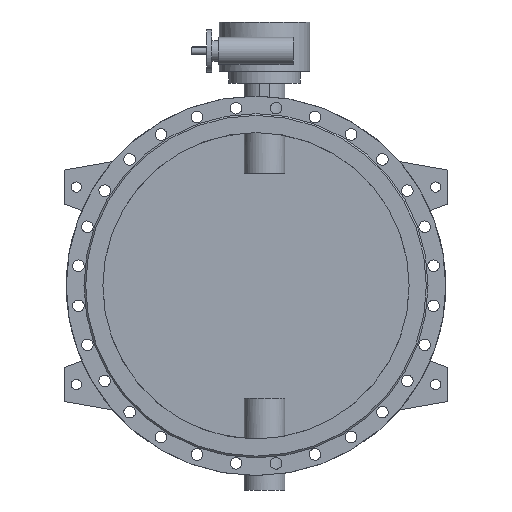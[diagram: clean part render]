
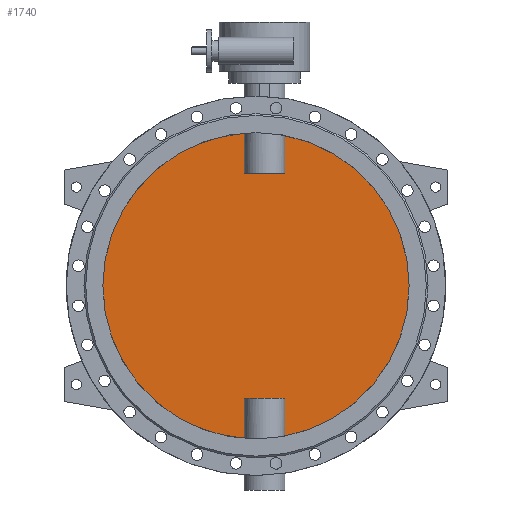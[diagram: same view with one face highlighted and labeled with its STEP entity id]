
A CAD part, front view. The second image highlights one B-rep face of the part: STEP entity #1740.
In plain terms, the highlighted planar face has unit normal (0, -1, 0).
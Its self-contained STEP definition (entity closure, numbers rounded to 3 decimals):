
#1740=ADVANCED_FACE('',(#3676),#3678,.F.);
#3676=FACE_BOUND('',#3677,.T.);
#3677=EDGE_LOOP('',(#4602,#4603,#4604,#4605,#4606,#4607,#4608,#4609));
#3678=PLANE('',#3679);
#3679=AXIS2_PLACEMENT_3D('',#3680,#3681,#3682);
#3680=CARTESIAN_POINT('',(0.,-5.,0.));
#3681=DIRECTION('',(0.,1.,0.));
#3682=DIRECTION('',(1.,0.,0.));
#4602=ORIENTED_EDGE('',*,*,#5065,.T.);
#4603=ORIENTED_EDGE('',*,*,#5071,.T.);
#4604=ORIENTED_EDGE('',*,*,#5072,.T.);
#4605=ORIENTED_EDGE('',*,*,#5073,.T.);
#4606=ORIENTED_EDGE('',*,*,#5067,.T.);
#4607=ORIENTED_EDGE('',*,*,#5074,.T.);
#4608=ORIENTED_EDGE('',*,*,#5075,.T.);
#4609=ORIENTED_EDGE('',*,*,#5076,.T.);
#5065=EDGE_CURVE('',#5833,#5834,#5835,.F.);
#5067=EDGE_CURVE('',#5838,#5836,#5839,.F.);
#5071=EDGE_CURVE('',#5834,#5845,#5846,.T.);
#5072=EDGE_CURVE('',#5845,#5847,#5848,.F.);
#5073=EDGE_CURVE('',#5847,#5838,#5849,.F.);
#5074=EDGE_CURVE('',#5836,#5850,#5851,.F.);
#5075=EDGE_CURVE('',#5850,#5852,#5853,.F.);
#5076=EDGE_CURVE('',#5852,#5833,#5854,.T.);
#5833=VERTEX_POINT('',#8590);
#5834=VERTEX_POINT('',#8591);
#5835=CIRCLE('',#8592,450.);
#5836=VERTEX_POINT('',#8596);
#5838=VERTEX_POINT('',#8686);
#5839=CIRCLE('',#8687,450.);
#5845=VERTEX_POINT('',#8807);
#5846=LINE('',#8808,#8809);
#5847=VERTEX_POINT('',#8811);
#5848=LINE('',#8812,#8813);
#5849=LINE('',#8815,#8816);
#5850=VERTEX_POINT('',#8818);
#5851=LINE('',#8819,#8820);
#5852=VERTEX_POINT('',#8822);
#5853=LINE('',#8823,#8824);
#5854=LINE('',#8826,#8827);
#8590=CARTESIAN_POINT('',(84.791,-5.,-441.939));
#8591=CARTESIAN_POINT('',(84.791,-5.,441.939));
#8592=AXIS2_PLACEMENT_3D('',#8593,#8594,#8595);
#8593=CARTESIAN_POINT('',(0.,-5.,0.));
#8594=DIRECTION('',(0.,1.,0.));
#8595=DIRECTION('',(0.188,0.,0.982));
#8596=CARTESIAN_POINT('',(-34.791,-5.,-448.653));
#8686=CARTESIAN_POINT('',(-34.791,-5.,448.653));
#8687=AXIS2_PLACEMENT_3D('',#8688,#8689,#8690);
#8688=CARTESIAN_POINT('',(0.,-5.,0.));
#8689=DIRECTION('',(0.,1.,0.));
#8690=DIRECTION('',(-0.077,0.,-0.997));
#8807=CARTESIAN_POINT('',(84.791,-5.,330.));
#8808=CARTESIAN_POINT('',(84.791,-5.,441.939));
#8809=VECTOR('',#8810,1.);
#8810=DIRECTION('',(0.,0.,-1.));
#8811=CARTESIAN_POINT('',(-34.791,-5.,330.));
#8812=CARTESIAN_POINT('',(-34.791,-5.,330.));
#8813=VECTOR('',#8814,1.);
#8814=DIRECTION('',(1.,0.,0.));
#8815=CARTESIAN_POINT('',(-34.791,-5.,448.653));
#8816=VECTOR('',#8817,1.);
#8817=DIRECTION('',(0.,0.,-1.));
#8818=CARTESIAN_POINT('',(-34.791,-5.,-330.));
#8819=CARTESIAN_POINT('',(-34.791,-5.,-330.));
#8820=VECTOR('',#8821,1.);
#8821=DIRECTION('',(0.,0.,-1.));
#8822=CARTESIAN_POINT('',(84.791,-5.,-330.));
#8823=CARTESIAN_POINT('',(84.791,-5.,-330.));
#8824=VECTOR('',#8825,1.);
#8825=DIRECTION('',(-1.,0.,0.));
#8826=CARTESIAN_POINT('',(84.791,-5.,-330.));
#8827=VECTOR('',#8828,1.);
#8828=DIRECTION('',(0.,0.,-1.));
